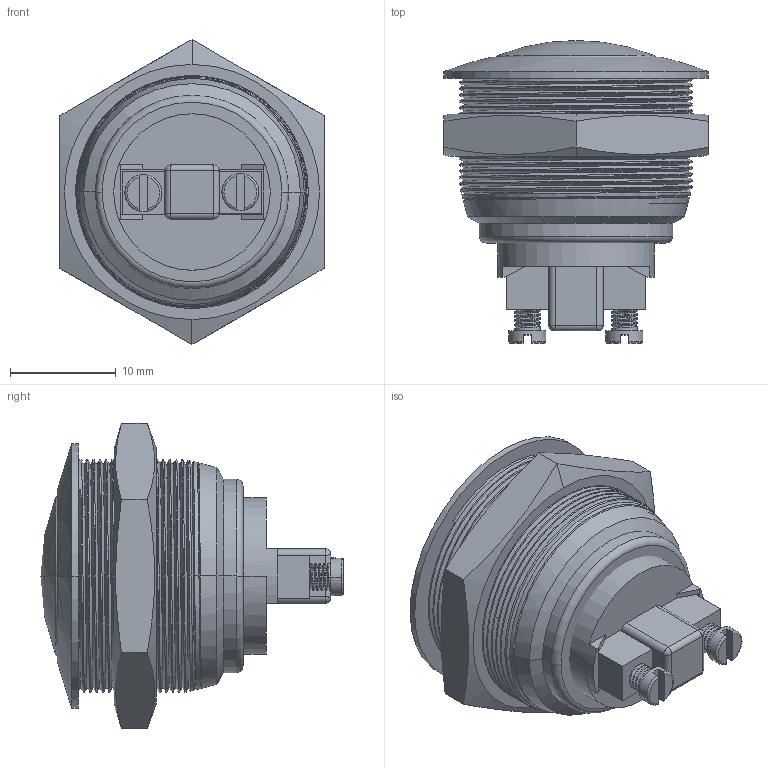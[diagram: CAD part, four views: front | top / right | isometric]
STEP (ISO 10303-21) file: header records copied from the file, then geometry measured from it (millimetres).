
FILE_DESCRIPTION((''),'2;1');
FILE_NAME('AV021003C900','2014-12-22T',('brevel'),(''),'PRO/ENGINEER BY PARAMETRIC TECHNOLOGY CORPORATION, 2013410','PRO/ENGINEER BY PARAMETRIC TECHNOLOGY CORPORATION, 2013410','');
FILE_SCHEMA(('CONFIG_CONTROL_DESIGN'));
Length unit declared in the file: millimetre
Products named in the file (1): AV021003C900
Bounding box: 25 x 28.66 x 28.87 mm (x, y, z)
Surface area: 4980.4 mm2 (no closed solid volume)
Topology: 0 solids, 10 shells, 165 faces, 508 edges, 347 vertices
Faces by surface type: cylinder 60, plane 59, bspline 22, cone 12, torus 8, sphere 4
Entity records: 17343 total; most frequent: CARTESIAN_POINT 13216, ORIENTED_EDGE 914, DIRECTION 698, EDGE_CURVE 504, VERTEX_POINT 347, AXIS2_PLACEMENT_3D 240, VECTOR 218, LINE 218
